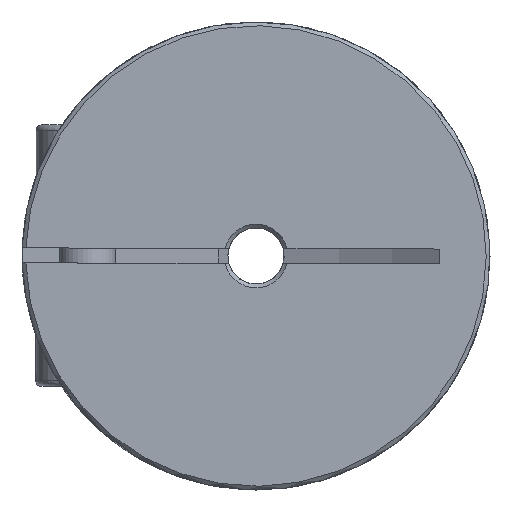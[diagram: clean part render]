
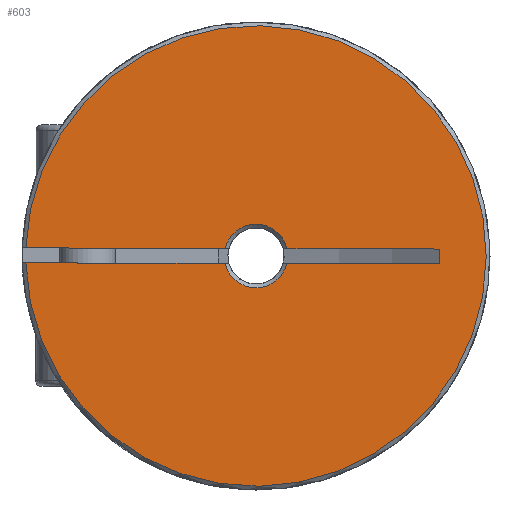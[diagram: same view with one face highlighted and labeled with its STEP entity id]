
A CAD part, left-side view. The second image highlights one B-rep face of the part: STEP entity #603.
In plain terms, the highlighted planar face has unit normal (-1, 0, 0) as drawn and (0, 0, 1) by its records, which use the part's own axes.
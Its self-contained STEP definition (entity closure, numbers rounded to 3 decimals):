
#603 = ADVANCED_FACE( 'NONE', ( #1303 ), #1304, .T. );
#1303 = FACE_OUTER_BOUND( '', #2110, .T. );
#1304 = PLANE( '', #2111 );
#2110 = EDGE_LOOP( '', ( #3451, #3452, #3453, #3454, #3455, #3456, #3457, #3458 ) );
#2111 = AXIS2_PLACEMENT_3D( '', #3459, #3460, #3461 );
#3451 = ORIENTED_EDGE( '', *, *, #4453, .F. );
#3452 = ORIENTED_EDGE( '', *, *, #4366, .T. );
#3453 = ORIENTED_EDGE( '', *, *, #4186, .F. );
#3454 = ORIENTED_EDGE( '', *, *, #4502, .T. );
#3455 = ORIENTED_EDGE( '', *, *, #4422, .T. );
#3456 = ORIENTED_EDGE( '', *, *, #4083, .T. );
#3457 = ORIENTED_EDGE( '', *, *, #4548, .T. );
#3458 = ORIENTED_EDGE( '', *, *, #4549, .F. );
#3459 = CARTESIAN_POINT( '', ( 0., 0., 11.25 ) );
#3460 = DIRECTION( '', ( 0., 0., 1. ) );
#3461 = DIRECTION( '', ( 1., 0., 0. ) );
#4083 = EDGE_CURVE( 'NONE', #4713, #4710, #4714, .F. );
#4186 = EDGE_CURVE( 'NONE', #4884, #4885, #4886, .T. );
#4366 = EDGE_CURVE( 'NONE', #5167, #4885, #5168, .F. );
#4422 = EDGE_CURVE( 'NONE', #5249, #4713, #5250, .T. );
#4453 = EDGE_CURVE( 'NONE', #5167, #5293, #5294, .F. );
#4502 = EDGE_CURVE( 'NONE', #4884, #5249, #5360, .T. );
#4548 = EDGE_CURVE( 'NONE', #4710, #5414, #5415, .T. );
#4549 = EDGE_CURVE( 'NONE', #5293, #5414, #5416, .F. );
#4710 = VERTEX_POINT( 'NONE', #5605 );
#4713 = VERTEX_POINT( 'NONE', #5611 );
#4714 = CIRCLE( '', #5612, 1.7 );
#4884 = VERTEX_POINT( 'NONE', #5801 );
#4885 = VERTEX_POINT( 'NONE', #5802 );
#4886 = LINE( '', #5803, #5804 );
#5167 = VERTEX_POINT( 'NONE', #6155 );
#5168 = CIRCLE( '', #6156, 1.7 );
#5249 = VERTEX_POINT( 'NONE', #6246 );
#5250 = LINE( '', #6247, #6248 );
#5293 = VERTEX_POINT( 'NONE', #6320 );
#5294 = LINE( '', #6321, #6322 );
#5360 = CIRCLE( '', #6394, 12.3 );
#5414 = VERTEX_POINT( 'NONE', #6649 );
#5415 = LINE( '', #6650, #6651 );
#5416 = LINE( '', #6652, #6653 );
#5605 = CARTESIAN_POINT( '', ( -1.652, -0.4, 11.25 ) );
#5611 = CARTESIAN_POINT( '', ( 1.652, -0.4, 11.25 ) );
#5612 = AXIS2_PLACEMENT_3D( '', #6854, #6855, #6856 );
#5801 = CARTESIAN_POINT( '', ( 12.293, 0.4, 11.25 ) );
#5802 = CARTESIAN_POINT( '', ( 1.652, 0.4, 11.25 ) );
#5803 = CARTESIAN_POINT( '', ( 0., 0.4, 11.25 ) );
#5804 = VECTOR( '', #7050, 1000. );
#6155 = CARTESIAN_POINT( '', ( -1.652, 0.4, 11.25 ) );
#6156 = AXIS2_PLACEMENT_3D( '', #7313, #7314, #7315 );
#6246 = CARTESIAN_POINT( '', ( 12.293, -0.4, 11.25 ) );
#6247 = CARTESIAN_POINT( '', ( 0., -0.4, 11.25 ) );
#6248 = VECTOR( '', #7418, 1000. );
#6320 = CARTESIAN_POINT( '', ( -9.815, 0.4, 11.25 ) );
#6321 = CARTESIAN_POINT( '', ( 7., 0.4, 11.25 ) );
#6322 = VECTOR( '', #7456, 1000. );
#6394 = AXIS2_PLACEMENT_3D( '', #7526, #7527, #7528 );
#6649 = CARTESIAN_POINT( '', ( -9.815, -0.4, 11.25 ) );
#6650 = CARTESIAN_POINT( '', ( 0., -0.4, 11.25 ) );
#6651 = VECTOR( '', #7591, 1000. );
#6652 = CARTESIAN_POINT( '', ( -9.815, -0.4, 11.25 ) );
#6653 = VECTOR( '', #7592, 1000. );
#6854 = CARTESIAN_POINT( '', ( 0., 0., 11.25 ) );
#6855 = DIRECTION( '', ( 0., 0., 1. ) );
#6856 = DIRECTION( '', ( 1., 0., 0. ) );
#7050 = DIRECTION( '', ( -1., 0., 0. ) );
#7313 = CARTESIAN_POINT( '', ( 0., 0., 11.25 ) );
#7314 = DIRECTION( '', ( 0., 0., 1. ) );
#7315 = DIRECTION( '', ( 1., 0., 0. ) );
#7418 = DIRECTION( '', ( -1., 0., 0. ) );
#7456 = DIRECTION( '', ( 1., 0., 0. ) );
#7526 = CARTESIAN_POINT( '', ( 0., 0., 11.25 ) );
#7527 = DIRECTION( '', ( 0., 0., 1. ) );
#7528 = DIRECTION( '', ( 1., 0., 0. ) );
#7591 = DIRECTION( '', ( -1., 0., 0. ) );
#7592 = DIRECTION( '', ( 0., 1., 0. ) );
